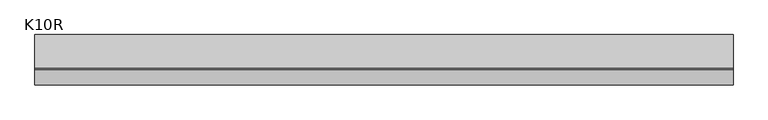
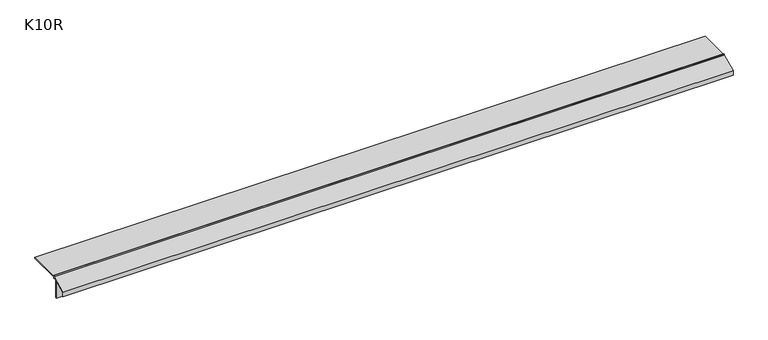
"""IFC4 building model written with IfcOpenShell, lengths in millimetres: proxy geometry, K10R Profil okapowy prosty z rynną : K10R."""

from ifc_helpers import new_model, si_unit, frame, origin, place, context, project, spatial, polyline, outline, extrude, source, transform, mapped, element, save


def k10r_da394ea9(model_context):
    return source(origin(), model_context, "Body", "SweptSolid", [
        extrude(outline(polyline([(-31.2999993, -17.3500005), (-1.2999997, -2.3500002), (-1.2999997, 0.0), (0.0, 0.0), (0.0, -2.3499993), (64.7000037, -2.3499993), (64.7000037, -3.6), (0.0, -3.6), (0.0, -6.2999991), (-1.1999998, -6.2999991), (-1.1999998, -3.697542), (-6.5000001, -6.3475423), (-6.5000001, -42.1535547), (-7.9999999, -43.6535517), (-7.9999999, -7.0975422), (-30.0499993, -18.1225422), (-30.0499993, -25.9199265), (-31.2999993, -26.6), (-31.2999993, -17.3500005)])), frame((0.0, 0.0, 0.0), z_axis=(1.0, 0.0, 0.0), x_axis=(0.0, 1.0, 0.0)), (0.0, 0.0, 1.0), 1327.9603634),
    ])


if __name__ == "__main__":
    model = new_model("IFC4")
    model_context = context("Model", 3, world=origin())
    ifc_project = project(units=[si_unit("LENGTHUNIT", "METRE", prefix="MILLI")], contexts=[model_context])
    site = spatial("IfcSite", under=ifc_project)
    building = spatial("IfcBuilding", under=site)
    placement = place(None, origin())
    k10r_shape = k10r_da394ea9(model_context)
    element("IfcBuildingElementProxy", 1, Name="K10R Profil okapowy prosty z rynną : K10R", ObjectType="K10R Profil okapowy prosty z rynną : K10R", at=placement, inside=building, context=model_context, shape_type="MappedRepresentation", body=[
        mapped(k10r_shape, transform((0.0, 0.0, 0.0), x_axis=(1.0, 0.0, 0.0), y_axis=(0.0, 1.0, 0.0), z_axis=(0.0, 0.0, 1.0))),
    ])
    save(model, "model.ifc")
